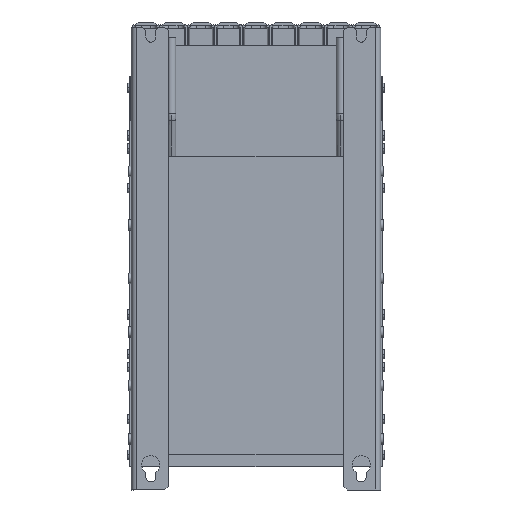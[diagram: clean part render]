
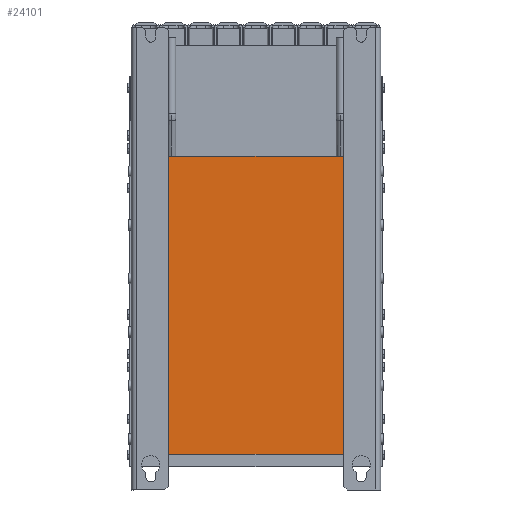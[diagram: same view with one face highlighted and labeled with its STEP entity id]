
A CAD part, front view. The second image highlights one B-rep face of the part: STEP entity #24101.
In plain terms, the highlighted planar face has unit normal (0, -1, 0).
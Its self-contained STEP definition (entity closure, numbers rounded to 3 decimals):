
#1209 = EDGE_CURVE ( 'NONE', #64842, #28881, #72082, .T. ) ;
#1611 = DIRECTION ( 'NONE',  ( 0., 0., -1. ) ) ;
#7399 = EDGE_CURVE ( 'NONE', #97212, #28881, #87576, .T. ) ;
#13795 = CARTESIAN_POINT ( 'NONE',  ( -160., -25., 12. ) ) ;
#16633 = ORIENTED_EDGE ( 'NONE', *, *, #76584, .T. ) ;
#19548 = CARTESIAN_POINT ( 'NONE',  ( 163., -25., 402. ) ) ;
#22614 = CARTESIAN_POINT ( 'NONE',  ( 160., -25., 12. ) ) ;
#23311 = ORIENTED_EDGE ( 'NONE', *, *, #7399, .T. ) ;
#24101 = ADVANCED_FACE ( 'NONE', ( #79260 ), #63296, .T. ) ;
#28871 = VECTOR ( 'NONE', #47322, 1000. ) ;
#28881 = VERTEX_POINT ( 'NONE', #83073 ) ;
#40239 = DIRECTION ( 'NONE',  ( -1., 0., 0. ) ) ;
#46297 = CARTESIAN_POINT ( 'NONE',  ( 160., -25., 12. ) ) ;
#47129 = CARTESIAN_POINT ( 'NONE',  ( 163., -25., 12. ) ) ;
#47322 = DIRECTION ( 'NONE',  ( 0., 0., 1. ) ) ;
#51162 = VECTOR ( 'NONE', #40239, 1000. ) ;
#51166 = CARTESIAN_POINT ( 'NONE',  ( -160., -25., 402. ) ) ;
#59337 = LINE ( 'NONE', #19548, #81290 ) ;
#60853 = VECTOR ( 'NONE', #94015, 1000. ) ;
#61954 = ORIENTED_EDGE ( 'NONE', *, *, #1209, .F. ) ;
#63296 = PLANE ( 'NONE',  #100309 ) ;
#64842 = VERTEX_POINT ( 'NONE', #22614 ) ;
#64851 = DIRECTION ( 'NONE',  ( 0., -1., 0. ) ) ;
#66242 = DIRECTION ( 'NONE',  ( -1., 0., 0. ) ) ;
#72082 = LINE ( 'NONE', #47129, #51162 ) ;
#72309 = CARTESIAN_POINT ( 'NONE',  ( 160., -25., 402. ) ) ;
#76584 = EDGE_CURVE ( 'NONE', #64842, #83074, #103694, .T. ) ;
#79260 = FACE_OUTER_BOUND ( 'NONE', #100371, .T. ) ;
#81290 = VECTOR ( 'NONE', #66242, 1000. ) ;
#83073 = CARTESIAN_POINT ( 'NONE',  ( -160., -25., 12. ) ) ;
#83074 = VERTEX_POINT ( 'NONE', #72309 ) ;
#87576 = LINE ( 'NONE', #13795, #60853 ) ;
#94015 = DIRECTION ( 'NONE',  ( 0., 0., -1. ) ) ;
#95135 = EDGE_CURVE ( 'NONE', #83074, #97212, #59337, .T. ) ;
#95735 = CARTESIAN_POINT ( 'NONE',  ( 163., -25., 728.957 ) ) ;
#97212 = VERTEX_POINT ( 'NONE', #51166 ) ;
#100309 = AXIS2_PLACEMENT_3D ( 'NONE', #95735, #64851, #1611 ) ;
#100371 = EDGE_LOOP ( 'NONE', ( #23311, #61954, #16633, #101169 ) ) ;
#101169 = ORIENTED_EDGE ( 'NONE', *, *, #95135, .T. ) ;
#103694 = LINE ( 'NONE', #46297, #28871 ) ;
